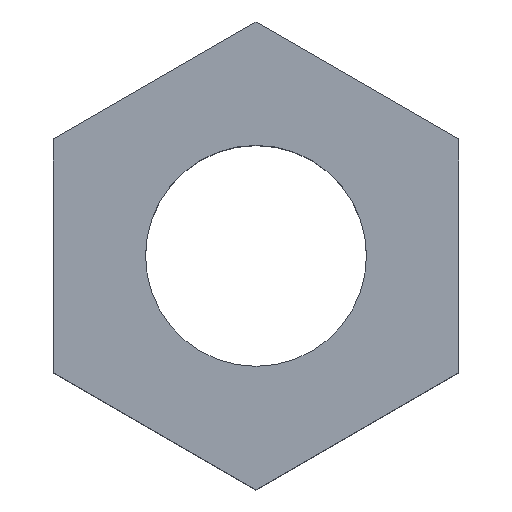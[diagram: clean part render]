
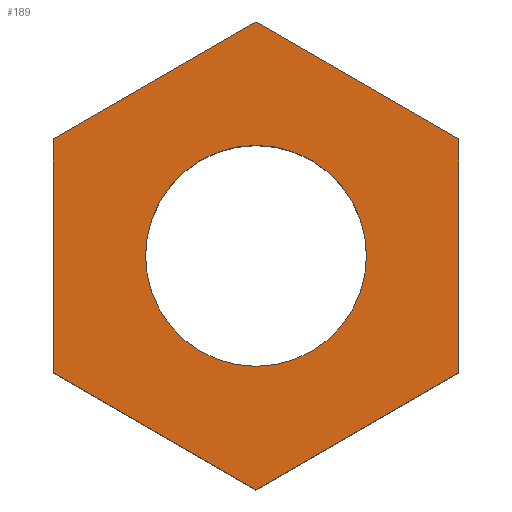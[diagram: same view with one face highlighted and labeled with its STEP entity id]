
A CAD part, top view. The second image highlights one B-rep face of the part: STEP entity #189.
In plain terms, the highlighted planar face has unit normal (0, 0, 1).
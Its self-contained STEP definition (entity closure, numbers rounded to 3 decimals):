
#3 = CARTESIAN_POINT ( 'NONE',  ( 0., 0., 2.4 ) ) ;
#4 = EDGE_CURVE ( 'NONE', #333, #152, #310, .T. ) ;
#5 = DIRECTION ( 'NONE',  ( 1., 0., 0. ) ) ;
#7 = EDGE_CURVE ( 'NONE', #94, #333, #74, .T. ) ;
#14 = DIRECTION ( 'NONE',  ( 0.866, -0.5, 0. ) ) ;
#17 = CARTESIAN_POINT ( 'NONE',  ( -2.75, -1.588, 2.4 ) ) ;
#18 = VERTEX_POINT ( 'NONE', #50 ) ;
#43 = EDGE_CURVE ( 'NONE', #351, #359, #111, .T. ) ;
#45 = CARTESIAN_POINT ( 'NONE',  ( -2.75, 1.588, 2.4 ) ) ;
#46 = CARTESIAN_POINT ( 'NONE',  ( 0., -3.175, 2.4 ) ) ;
#50 = CARTESIAN_POINT ( 'NONE',  ( 0., 3.175, 2.4 ) ) ;
#61 = LINE ( 'NONE', #265, #204 ) ;
#67 = ORIENTED_EDGE ( 'NONE', *, *, #163, .T. ) ;
#70 = CARTESIAN_POINT ( 'NONE',  ( 0., 0., 2.4 ) ) ;
#71 = CARTESIAN_POINT ( 'NONE',  ( 0., 0., 2.4 ) ) ;
#74 = LINE ( 'NONE', #308, #178 ) ;
#81 = LINE ( 'NONE', #209, #295 ) ;
#85 = EDGE_LOOP ( 'NONE', ( #329, #336 ) ) ;
#88 = ORIENTED_EDGE ( 'NONE', *, *, #7, .T. ) ;
#91 = LINE ( 'NONE', #206, #114 ) ;
#94 = VERTEX_POINT ( 'NONE', #17 ) ;
#95 = DIRECTION ( 'NONE',  ( 0., 1., 0. ) ) ;
#107 = CARTESIAN_POINT ( 'NONE',  ( 0., -3.175, 2.4 ) ) ;
#109 = CARTESIAN_POINT ( 'NONE',  ( 1.5, 0., 2.4 ) ) ;
#111 = CIRCLE ( 'NONE', #186, 1.5 ) ;
#114 = VECTOR ( 'NONE', #242, 1000. ) ;
#120 = DIRECTION ( 'NONE',  ( 0., 0., 1. ) ) ;
#121 = ORIENTED_EDGE ( 'NONE', *, *, #4, .T. ) ;
#124 = DIRECTION ( 'NONE',  ( 0., -1., 0. ) ) ;
#133 = ORIENTED_EDGE ( 'NONE', *, *, #275, .T. ) ;
#152 = VERTEX_POINT ( 'NONE', #343 ) ;
#156 = EDGE_LOOP ( 'NONE', ( #179, #264, #133, #67, #88, #121 ) ) ;
#158 = DIRECTION ( 'NONE',  ( 0.866, 0.5, 0. ) ) ;
#163 = EDGE_CURVE ( 'NONE', #205, #94, #81, .T. ) ;
#164 = EDGE_CURVE ( 'NONE', #324, #18, #61, .T. ) ;
#169 = CARTESIAN_POINT ( 'NONE',  ( 2.75, -1.588, 2.4 ) ) ;
#171 = PLANE ( 'NONE',  #314 ) ;
#172 = DIRECTION ( 'NONE',  ( 0., 0., 1. ) ) ;
#173 = VECTOR ( 'NONE', #95, 1000. ) ;
#178 = VECTOR ( 'NONE', #14, 1000. ) ;
#179 = ORIENTED_EDGE ( 'NONE', *, *, #278, .T. ) ;
#186 = AXIS2_PLACEMENT_3D ( 'NONE', #71, #281, #276 ) ;
#189 = ADVANCED_FACE ( 'NONE', ( #325, #240 ), #171, .T. ) ;
#204 = VECTOR ( 'NONE', #271, 1000. ) ;
#205 = VERTEX_POINT ( 'NONE', #45 ) ;
#206 = CARTESIAN_POINT ( 'NONE',  ( 0., 3.175, 2.4 ) ) ;
#209 = CARTESIAN_POINT ( 'NONE',  ( -2.75, 1.588, 2.4 ) ) ;
#219 = VECTOR ( 'NONE', #158, 1000. ) ;
#240 = FACE_BOUND ( 'NONE', #85, .T. ) ;
#242 = DIRECTION ( 'NONE',  ( -0.866, -0.5, 0. ) ) ;
#264 = ORIENTED_EDGE ( 'NONE', *, *, #164, .T. ) ;
#265 = CARTESIAN_POINT ( 'NONE',  ( 2.75, 1.588, 2.4 ) ) ;
#271 = DIRECTION ( 'NONE',  ( -0.866, 0.5, 0. ) ) ;
#275 = EDGE_CURVE ( 'NONE', #18, #205, #91, .T. ) ;
#276 = DIRECTION ( 'NONE',  ( 1., 0., 0. ) ) ;
#278 = EDGE_CURVE ( 'NONE', #152, #324, #362, .T. ) ;
#281 = DIRECTION ( 'NONE',  ( 0., 0., 1. ) ) ;
#283 = CIRCLE ( 'NONE', #318, 1.5 ) ;
#295 = VECTOR ( 'NONE', #124, 1000. ) ;
#303 = EDGE_CURVE ( 'NONE', #359, #351, #283, .T. ) ;
#308 = CARTESIAN_POINT ( 'NONE',  ( -2.75, -1.588, 2.4 ) ) ;
#310 = LINE ( 'NONE', #46, #219 ) ;
#314 = AXIS2_PLACEMENT_3D ( 'NONE', #3, #172, #5 ) ;
#318 = AXIS2_PLACEMENT_3D ( 'NONE', #70, #120, #327 ) ;
#324 = VERTEX_POINT ( 'NONE', #337 ) ;
#325 = FACE_OUTER_BOUND ( 'NONE', #156, .T. ) ;
#327 = DIRECTION ( 'NONE',  ( 1., 0., 0. ) ) ;
#329 = ORIENTED_EDGE ( 'NONE', *, *, #303, .F. ) ;
#333 = VERTEX_POINT ( 'NONE', #107 ) ;
#336 = ORIENTED_EDGE ( 'NONE', *, *, #43, .F. ) ;
#337 = CARTESIAN_POINT ( 'NONE',  ( 2.75, 1.588, 2.4 ) ) ;
#343 = CARTESIAN_POINT ( 'NONE',  ( 2.75, -1.588, 2.4 ) ) ;
#351 = VERTEX_POINT ( 'NONE', #109 ) ;
#359 = VERTEX_POINT ( 'NONE', #365 ) ;
#362 = LINE ( 'NONE', #169, #173 ) ;
#365 = CARTESIAN_POINT ( 'NONE',  ( -1.5, 0., 2.4 ) ) ;
